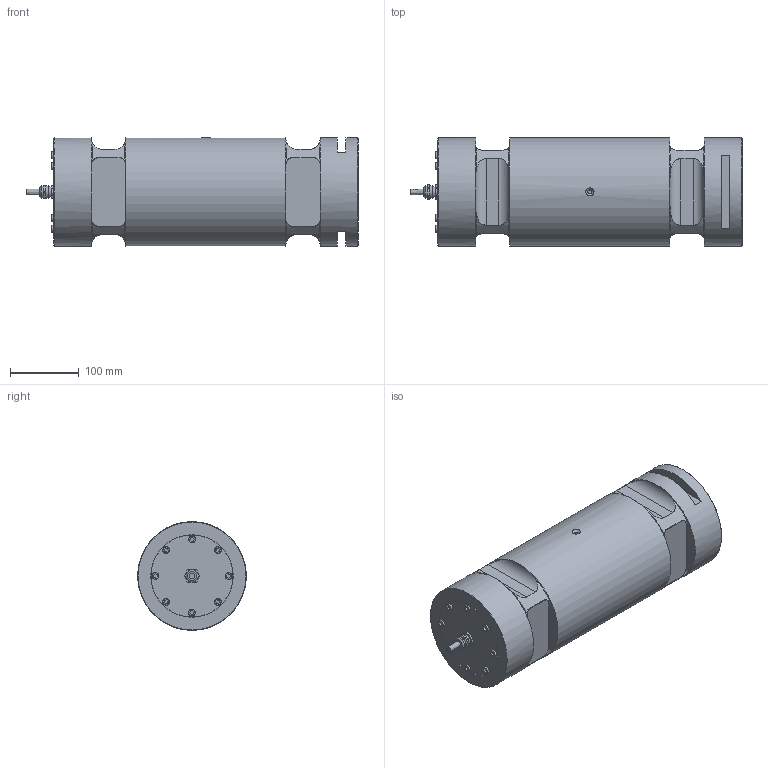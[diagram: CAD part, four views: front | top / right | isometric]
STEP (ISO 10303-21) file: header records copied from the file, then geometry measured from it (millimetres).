
FILE_DESCRIPTION(/* description */ ('Alibre Inc.'),/* implementation_level */ '2;1');
FILE_NAME(/* name */ 'export-1D1F3F2B-4353-4787-838B-45C3B5FC8DAD',/* time_stamp */ '2019-04-05T11:57:00+02:00',/* author */ (''),/* organization */ (''),/* preprocessor_version */ 'ST-DEVELOPER v17',/* originating_system */ 'Alibre',/* authorisation */ '');
FILE_SCHEMA (('CONFIG_CONTROL_DESIGN'));
Length unit declared in the file: centimetre
Products named in the file (8): ID_1
Bounding box: 483.45 x 158 x 158 mm (x, y, z)
Volume: 8158473.5 mm3; surface area: 324448.4 mm2
Topology: 13 solids, 13 shells, 337 faces, 768 edges, 477 vertices
Faces by surface type: plane 144, cylinder 141, torus 26, cone 25, bspline 1
Full cylindrical faces by diameter (mm): 5 x8, 6 x9, 6.5 x8, 8 x2, 10 x8, 11.125 x1, 14 x2, 14.376 x1, 16 x2, 17.5 x1, 18 x2, 119.5 x1, 120 x1, 158 x3
Entity records: 10164 total; most frequent: CARTESIAN_POINT 5206, ORIENTED_EDGE 798, DIRECTION 703, EDGE_CURVE 399, AXIS2_PLACEMENT_3D 309, FACE_BOUND 296, VERTEX_POINT 291, EDGE_LOOP 283
